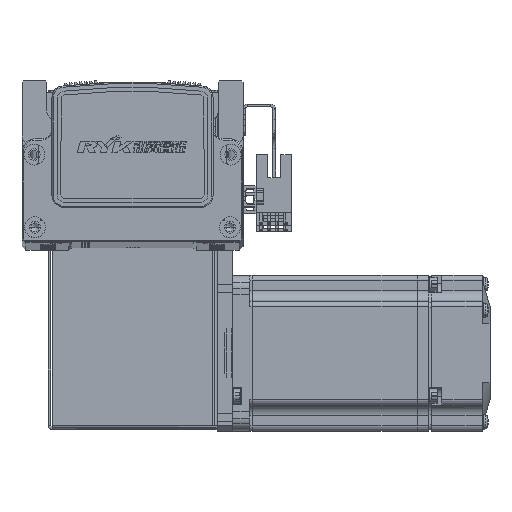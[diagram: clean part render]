
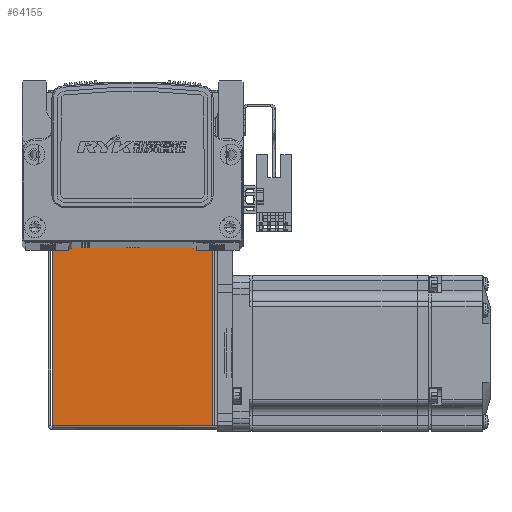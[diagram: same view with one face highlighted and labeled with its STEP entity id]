
A CAD part, top view. The second image highlights one B-rep face of the part: STEP entity #64155.
In plain terms, the highlighted planar face has unit normal (0, 0, 1).
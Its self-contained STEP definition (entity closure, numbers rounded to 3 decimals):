
#328 = EDGE_CURVE ( 'NONE', #24682, #24745, #44928, .T. ) ;
#345 = EDGE_CURVE ( 'NONE', #24628, #24745, #45031, .T. ) ;
#367 = EDGE_CURVE ( 'NONE', #24693, #24628, #45023, .T. ) ;
#398 = EDGE_CURVE ( 'NONE', #24693, #24682, #45144, .T. ) ;
#12035 = CARTESIAN_POINT ( 'NONE',  ( 0., 72.5, 35. ) ) ;
#12061 = DIRECTION ( 'NONE',  ( -1., 0., 0. ) ) ;
#12080 = DIRECTION ( 'NONE',  ( 0., 1., 0. ) ) ;
#12085 = CARTESIAN_POINT ( 'NONE',  ( -30.793, 0., 35. ) ) ;
#12141 = CARTESIAN_POINT ( 'NONE',  ( -32.5, 0.737, 35. ) ) ;
#12171 = DIRECTION ( 'NONE',  ( -1., 0., 0. ) ) ;
#12209 = CARTESIAN_POINT ( 'NONE',  ( 30.763, 0.737, 35. ) ) ;
#12231 = DIRECTION ( 'NONE',  ( 0., 1., 0. ) ) ;
#15045 = EDGE_LOOP ( 'NONE', ( #68817, #68796, #68821, #68833 ) ) ;
#24628 = VERTEX_POINT ( 'NONE', #52795 ) ;
#24682 = VERTEX_POINT ( 'NONE', #52941 ) ;
#24693 = VERTEX_POINT ( 'NONE', #52867 ) ;
#24745 = VERTEX_POINT ( 'NONE', #53057 ) ;
#44911 = VECTOR ( 'NONE', #12061, 1000. ) ;
#44928 = LINE ( 'NONE', #12035, #44911 ) ;
#44968 = VECTOR ( 'NONE', #12080, 1000. ) ;
#45023 = LINE ( 'NONE', #12141, #45079 ) ;
#45031 = LINE ( 'NONE', #12085, #44968 ) ;
#45079 = VECTOR ( 'NONE', #12171, 1000. ) ;
#45144 = LINE ( 'NONE', #12209, #45192 ) ;
#45192 = VECTOR ( 'NONE', #12231, 1000. ) ;
#52795 = CARTESIAN_POINT ( 'NONE',  ( -30.793, 0.737, 35. ) ) ;
#52867 = CARTESIAN_POINT ( 'NONE',  ( 30.763, 0.737, 35. ) ) ;
#52941 = CARTESIAN_POINT ( 'NONE',  ( 30.763, 72.5, 35. ) ) ;
#53057 = CARTESIAN_POINT ( 'NONE',  ( -30.793, 72.5, 35. ) ) ;
#64155 = ADVANCED_FACE ( 'NONE', ( #69865 ), #67885, .F. ) ;
#66097 = AXIS2_PLACEMENT_3D ( 'NONE', #67874, #67871, #67877 ) ;
#67871 = DIRECTION ( 'NONE',  ( 0., 0., -1. ) ) ;
#67874 = CARTESIAN_POINT ( 'NONE',  ( 0., 0., 35. ) ) ;
#67877 = DIRECTION ( 'NONE',  ( -1., 0., 0. ) ) ;
#67885 = PLANE ( 'NONE',  #66097 ) ;
#68796 = ORIENTED_EDGE ( 'NONE', *, *, #328, .T. ) ;
#68817 = ORIENTED_EDGE ( 'NONE', *, *, #398, .T. ) ;
#68821 = ORIENTED_EDGE ( 'NONE', *, *, #345, .F. ) ;
#68833 = ORIENTED_EDGE ( 'NONE', *, *, #367, .F. ) ;
#69865 = FACE_OUTER_BOUND ( 'NONE', #15045, .T. ) ;
